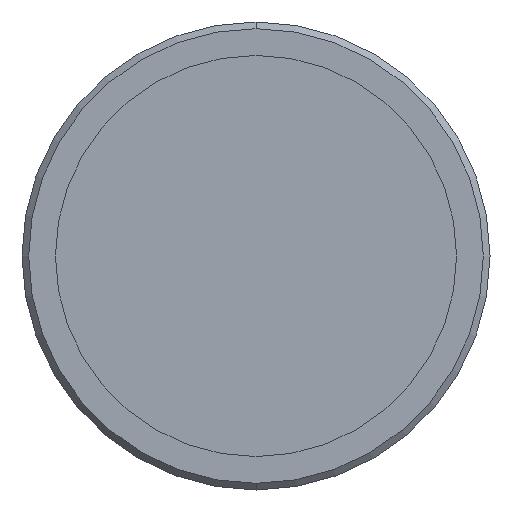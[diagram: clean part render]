
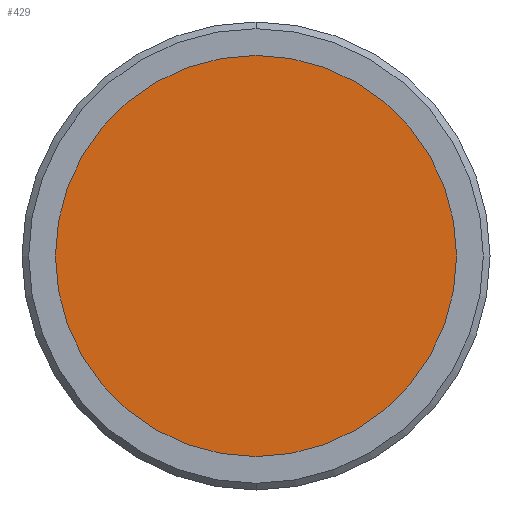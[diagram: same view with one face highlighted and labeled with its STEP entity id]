
A CAD part, front view. The second image highlights one B-rep face of the part: STEP entity #429.
In plain terms, the highlighted planar face has unit normal (0, -1, 0).
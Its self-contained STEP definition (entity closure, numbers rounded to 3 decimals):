
#7 = CARTESIAN_POINT ( 'NONE',  ( 0., -9., -15. ) ) ;
#26 = CARTESIAN_POINT ( 'NONE',  ( 0., -9., 0. ) ) ;
#88 = VERTEX_POINT ( 'NONE', #262 ) ;
#127 = CARTESIAN_POINT ( 'NONE',  ( 0., -9., 0. ) ) ;
#130 = DIRECTION ( 'NONE',  ( 0., 0., 1. ) ) ;
#150 = AXIS2_PLACEMENT_3D ( 'NONE', #472, #399, #595 ) ;
#207 = DIRECTION ( 'NONE',  ( 0., 0., 1. ) ) ;
#262 = CARTESIAN_POINT ( 'NONE',  ( 0., -9., 15. ) ) ;
#377 = AXIS2_PLACEMENT_3D ( 'NONE', #26, #664, #130 ) ;
#387 = FACE_OUTER_BOUND ( 'NONE', #894, .T. ) ;
#399 = DIRECTION ( 'NONE',  ( 0., -1., 0. ) ) ;
#422 = CIRCLE ( 'NONE', #701, 15. ) ;
#429 = ADVANCED_FACE ( 'NONE', ( #387 ), #585, .T. ) ;
#472 = CARTESIAN_POINT ( 'NONE',  ( 0., -9., 0. ) ) ;
#564 = VERTEX_POINT ( 'NONE', #7 ) ;
#585 = PLANE ( 'NONE',  #150 ) ;
#595 = DIRECTION ( 'NONE',  ( 0., 0., -1. ) ) ;
#664 = DIRECTION ( 'NONE',  ( 0., 1., 0. ) ) ;
#701 = AXIS2_PLACEMENT_3D ( 'NONE', #127, #758, #207 ) ;
#713 = ORIENTED_EDGE ( 'NONE', *, *, #783, .F. ) ;
#734 = EDGE_CURVE ( 'NONE', #88, #564, #422, .T. ) ;
#758 = DIRECTION ( 'NONE',  ( 0., 1., 0. ) ) ;
#783 = EDGE_CURVE ( 'NONE', #564, #88, #974, .T. ) ;
#894 = EDGE_LOOP ( 'NONE', ( #1134, #713 ) ) ;
#974 = CIRCLE ( 'NONE', #377, 15. ) ;
#1134 = ORIENTED_EDGE ( 'NONE', *, *, #734, .F. ) ;
